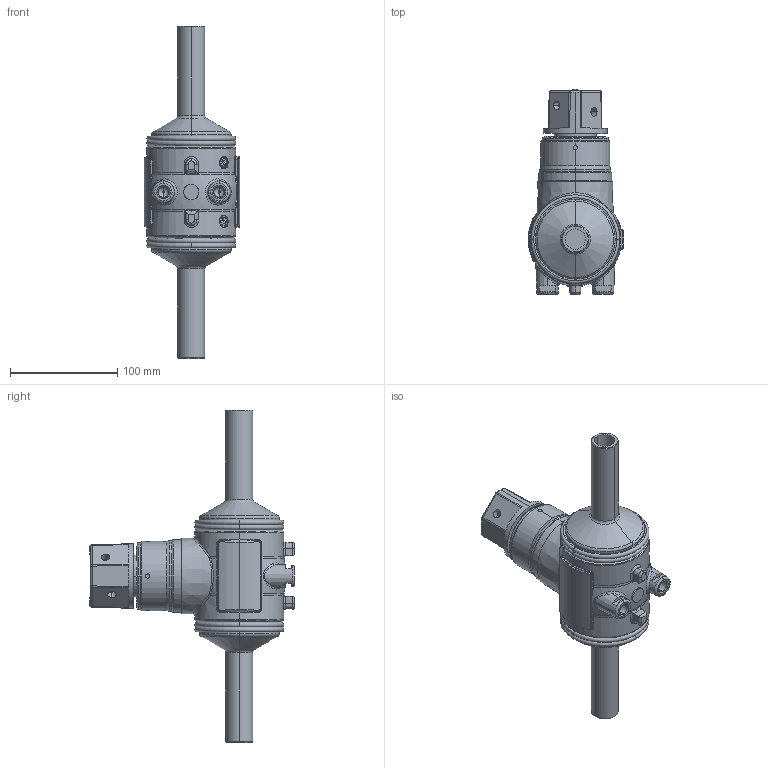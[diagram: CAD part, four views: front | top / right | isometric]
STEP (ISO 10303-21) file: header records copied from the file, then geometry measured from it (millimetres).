
FILE_DESCRIPTION (( 'STEP AP203' ), '1' );
FILE_NAME ('SOLID MAGNUS BALL VALVE OD25-DN25.STEP', '2021-01-11T15:17:28', ( '' ), ( '' ), 'SwSTEP 2.0', 'SolidWorks 2020', '' );
FILE_SCHEMA (( 'CONFIG_CONTROL_DESIGN' ));
Length unit declared in the file: millimetre
Products named in the file (1): SOLID MAGNUS BALL VALVE OD25-DN25
Bounding box: 89.3 x 191.5 x 310.2 mm (x, y, z)
Volume: 1019964.5 mm3; surface area: 94326.5 mm2
Topology: 1 solids, 1 shells, 1312 faces, 3340 edges, 2131 vertices
Faces by surface type: plane 517, bspline 388, cylinder 235, torus 104, cone 50, sphere 18
Entity records: 59073 total; most frequent: CARTESIAN_POINT 30944, ORIENTED_EDGE 6640, DIRECTION 4537, EDGE_CURVE 3320, VERTEX_POINT 2131, AXIS2_PLACEMENT_3D 1544, VECTOR 1449, LINE 1449
